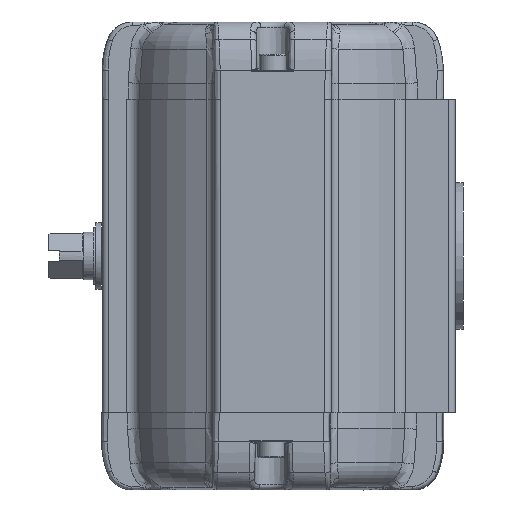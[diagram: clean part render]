
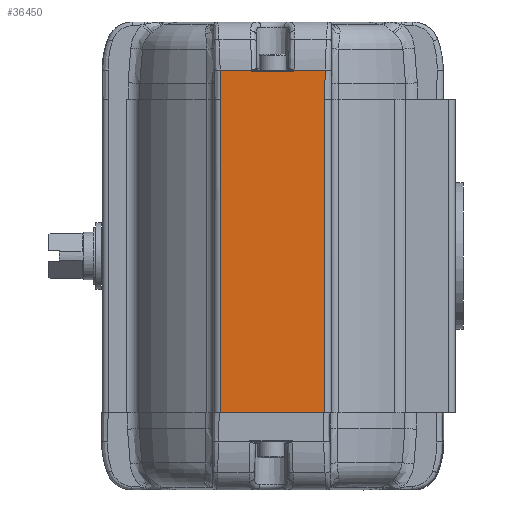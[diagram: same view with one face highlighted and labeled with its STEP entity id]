
A CAD part, left-side view. The second image highlights one B-rep face of the part: STEP entity #36450.
In plain terms, the highlighted planar face has unit normal (-1, 0, 0).
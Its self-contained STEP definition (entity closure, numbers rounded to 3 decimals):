
#816=PLANE('',#40050);
#1895=LINE('',#63742,#3236);
#1896=LINE('',#63746,#3237);
#1897=LINE('',#63775,#3238);
#1898=LINE('',#63777,#3239);
#1899=LINE('',#63779,#3240);
#1900=LINE('',#63781,#3241);
#1901=LINE('',#63783,#3242);
#1902=LINE('',#63811,#3243);
#1903=LINE('',#63812,#3244);
#3236=VECTOR('',#47296,10.);
#3237=VECTOR('',#47299,10.);
#3238=VECTOR('',#47300,10.);
#3239=VECTOR('',#47301,10.);
#3240=VECTOR('',#47302,10.);
#3241=VECTOR('',#47303,10.);
#3242=VECTOR('',#47304,10.);
#3243=VECTOR('',#47305,10.);
#3244=VECTOR('',#47306,10.);
#4645=B_SPLINE_CURVE_WITH_KNOTS('',3,(#63748,#63749,#63750,#63751,#63752,
#63753,#63754,#63755,#63756,#63757,#63758,#63759,#63760,#63761,#63762,#63763,
#63764,#63765,#63766,#63767,#63768,#63769,#63770,#63771,#63772,#63773),
 .UNSPECIFIED.,.F.,.F.,(4,2,2,2,2,2,2,2,2,2,2,2,4),(-1.1,-1.009,
-0.917,-0.825,-0.733,-0.642,
-0.55,-0.458,-0.367,-0.275,
-0.183,-0.092,0.),
 .UNSPECIFIED.);
#4646=B_SPLINE_CURVE_WITH_KNOTS('',3,(#63784,#63785,#63786,#63787,#63788,
#63789,#63790,#63791,#63792,#63793,#63794,#63795,#63796,#63797,#63798,#63799,
#63800,#63801,#63802,#63803,#63804,#63805,#63806,#63807,#63808,#63809),
 .UNSPECIFIED.,.F.,.F.,(4,2,2,2,2,2,2,2,2,2,2,2,4),(-13.038,-12.946,
-12.854,-12.763,-12.671,-12.579,
-12.487,-12.396,-12.304,-12.212,
-12.121,-12.029,-11.937),.UNSPECIFIED.);
#7620=FACE_OUTER_BOUND('',#9937,.T.);
#9937=EDGE_LOOP('',(#27232,#27233,#27234,#27235,#27236,#27237,#27238,#27239,
#27240,#27241,#27242));
#15040=VERTEX_POINT('',#63736);
#15042=VERTEX_POINT('',#63740);
#15043=VERTEX_POINT('',#63744);
#15044=VERTEX_POINT('',#63745);
#15045=VERTEX_POINT('',#63747);
#15046=VERTEX_POINT('',#63774);
#15047=VERTEX_POINT('',#63776);
#15048=VERTEX_POINT('',#63778);
#15049=VERTEX_POINT('',#63780);
#15050=VERTEX_POINT('',#63782);
#15051=VERTEX_POINT('',#63810);
#19295=EDGE_CURVE('',#15042,#15040,#1895,.T.);
#19296=EDGE_CURVE('',#15043,#15044,#1896,.T.);
#19297=EDGE_CURVE('',#15045,#15043,#4645,.T.);
#19298=EDGE_CURVE('',#15045,#15046,#1897,.T.);
#19299=EDGE_CURVE('',#15047,#15046,#1898,.T.);
#19300=EDGE_CURVE('',#15048,#15047,#1899,.T.);
#19301=EDGE_CURVE('',#15048,#15049,#1900,.T.);
#19302=EDGE_CURVE('',#15049,#15050,#1901,.T.);
#19303=EDGE_CURVE('',#15040,#15050,#4646,.T.);
#19304=EDGE_CURVE('',#15042,#15051,#1902,.T.);
#19305=EDGE_CURVE('',#15051,#15044,#1903,.T.);
#27232=ORIENTED_EDGE('',*,*,#19296,.F.);
#27233=ORIENTED_EDGE('',*,*,#19297,.F.);
#27234=ORIENTED_EDGE('',*,*,#19298,.T.);
#27235=ORIENTED_EDGE('',*,*,#19299,.F.);
#27236=ORIENTED_EDGE('',*,*,#19300,.F.);
#27237=ORIENTED_EDGE('',*,*,#19301,.T.);
#27238=ORIENTED_EDGE('',*,*,#19302,.T.);
#27239=ORIENTED_EDGE('',*,*,#19303,.F.);
#27240=ORIENTED_EDGE('',*,*,#19295,.F.);
#27241=ORIENTED_EDGE('',*,*,#19304,.T.);
#27242=ORIENTED_EDGE('',*,*,#19305,.T.);
#36450=ADVANCED_FACE('',(#7620),#816,.T.);
#40050=AXIS2_PLACEMENT_3D('',#63743,#47297,#47298);
#47296=DIRECTION('',(0.,0.,1.));
#47297=DIRECTION('center_axis',(-1.,0.,0.));
#47298=DIRECTION('ref_axis',(0.,0.,1.));
#47299=DIRECTION('',(0.,0.,-1.));
#47300=DIRECTION('',(0.,1.,0.));
#47301=DIRECTION('',(0.,-0.017,1.));
#47302=DIRECTION('',(0.,-1.,0.));
#47303=DIRECTION('',(0.,0.017,1.));
#47304=DIRECTION('',(0.,1.,0.));
#47305=DIRECTION('',(0.,-1.,0.));
#47306=DIRECTION('',(0.,-1.,0.));
#63736=CARTESIAN_POINT('',(-64.,19.5,58.75));
#63740=CARTESIAN_POINT('',(-64.,19.5,-58.75));
#63742=CARTESIAN_POINT('',(-64.,19.5,0.));
#63743=CARTESIAN_POINT('Origin',(-64.,-22.,0.));
#63744=CARTESIAN_POINT('',(-64.,-19.5,58.75));
#63745=CARTESIAN_POINT('',(-64.,-19.5,-58.75));
#63746=CARTESIAN_POINT('',(-64.,-19.5,0.));
#63747=CARTESIAN_POINT('',(-64.,-19.689,69.75));
#63748=CARTESIAN_POINT('Ctrl Pts',(-64.,-19.689,69.75));
#63749=CARTESIAN_POINT('Ctrl Pts',(-64.,-19.679,69.444));
#63750=CARTESIAN_POINT('Ctrl Pts',(-64.,-19.67,69.139));
#63751=CARTESIAN_POINT('Ctrl Pts',(-64.,-19.651,68.528));
#63752=CARTESIAN_POINT('Ctrl Pts',(-64.,-19.642,68.222));
#63753=CARTESIAN_POINT('Ctrl Pts',(-64.,-19.625,67.611));
#63754=CARTESIAN_POINT('Ctrl Pts',(-64.,-19.617,67.305));
#63755=CARTESIAN_POINT('Ctrl Pts',(-64.,-19.602,66.694));
#63756=CARTESIAN_POINT('Ctrl Pts',(-64.,-19.594,66.389));
#63757=CARTESIAN_POINT('Ctrl Pts',(-64.,-19.58,65.778));
#63758=CARTESIAN_POINT('Ctrl Pts',(-64.,-19.574,65.472));
#63759=CARTESIAN_POINT('Ctrl Pts',(-64.,-19.561,64.861));
#63760=CARTESIAN_POINT('Ctrl Pts',(-64.,-19.556,64.556));
#63761=CARTESIAN_POINT('Ctrl Pts',(-64.,-19.545,63.944));
#63762=CARTESIAN_POINT('Ctrl Pts',(-64.,-19.54,63.639));
#63763=CARTESIAN_POINT('Ctrl Pts',(-64.,-19.531,63.028));
#63764=CARTESIAN_POINT('Ctrl Pts',(-64.,-19.526,62.722));
#63765=CARTESIAN_POINT('Ctrl Pts',(-64.,-19.519,62.111));
#63766=CARTESIAN_POINT('Ctrl Pts',(-64.,-19.516,61.806));
#63767=CARTESIAN_POINT('Ctrl Pts',(-64.,-19.51,
61.194));
#63768=CARTESIAN_POINT('Ctrl Pts',(-64.,-19.508,
60.889));
#63769=CARTESIAN_POINT('Ctrl Pts',(-64.,-19.504,
60.278));
#63770=CARTESIAN_POINT('Ctrl Pts',(-64.,-19.502,59.972));
#63771=CARTESIAN_POINT('Ctrl Pts',(-64.,-19.5,59.361));
#63772=CARTESIAN_POINT('Ctrl Pts',(-64.,-19.5,59.056));
#63773=CARTESIAN_POINT('Ctrl Pts',(-64.,-19.5,58.75));
#63774=CARTESIAN_POINT('',(-64.,-8.,69.75));
#63775=CARTESIAN_POINT('',(-64.,0.,69.75));
#63776=CARTESIAN_POINT('',(-64.,-7.992,69.25));
#63777=CARTESIAN_POINT('',(-64.,-8.,69.715));
#63778=CARTESIAN_POINT('',(-64.,7.992,69.25));
#63779=CARTESIAN_POINT('',(-64.,11.,69.25));
#63780=CARTESIAN_POINT('',(-64.,8.,69.75));
#63781=CARTESIAN_POINT('',(-64.,8.319,87.989));
#63782=CARTESIAN_POINT('',(-64.,19.689,69.75));
#63783=CARTESIAN_POINT('',(-64.,0.,69.75));
#63784=CARTESIAN_POINT('Ctrl Pts',(-64.,19.5,58.75));
#63785=CARTESIAN_POINT('Ctrl Pts',(-64.,19.5,59.056));
#63786=CARTESIAN_POINT('Ctrl Pts',(-64.,19.5,59.361));
#63787=CARTESIAN_POINT('Ctrl Pts',(-64.,19.502,59.972));
#63788=CARTESIAN_POINT('Ctrl Pts',(-64.,19.504,60.278));
#63789=CARTESIAN_POINT('Ctrl Pts',(-64.,19.508,60.889));
#63790=CARTESIAN_POINT('Ctrl Pts',(-64.,19.51,61.194));
#63791=CARTESIAN_POINT('Ctrl Pts',(-64.,19.516,61.806));
#63792=CARTESIAN_POINT('Ctrl Pts',(-64.,19.519,62.111));
#63793=CARTESIAN_POINT('Ctrl Pts',(-64.,19.526,62.722));
#63794=CARTESIAN_POINT('Ctrl Pts',(-64.,19.531,63.028));
#63795=CARTESIAN_POINT('Ctrl Pts',(-64.,19.54,63.639));
#63796=CARTESIAN_POINT('Ctrl Pts',(-64.,19.545,63.944));
#63797=CARTESIAN_POINT('Ctrl Pts',(-64.,19.556,64.556));
#63798=CARTESIAN_POINT('Ctrl Pts',(-64.,19.561,64.861));
#63799=CARTESIAN_POINT('Ctrl Pts',(-64.,19.574,65.472));
#63800=CARTESIAN_POINT('Ctrl Pts',(-64.,19.58,65.778));
#63801=CARTESIAN_POINT('Ctrl Pts',(-64.,19.594,66.389));
#63802=CARTESIAN_POINT('Ctrl Pts',(-64.,19.602,66.694));
#63803=CARTESIAN_POINT('Ctrl Pts',(-64.,19.617,67.305));
#63804=CARTESIAN_POINT('Ctrl Pts',(-64.,19.625,67.611));
#63805=CARTESIAN_POINT('Ctrl Pts',(-64.,19.642,68.222));
#63806=CARTESIAN_POINT('Ctrl Pts',(-64.,19.651,68.528));
#63807=CARTESIAN_POINT('Ctrl Pts',(-64.,19.67,69.139));
#63808=CARTESIAN_POINT('Ctrl Pts',(-64.,19.679,69.444));
#63809=CARTESIAN_POINT('Ctrl Pts',(-64.,19.689,69.75));
#63810=CARTESIAN_POINT('',(-64.,0.285,-58.75));
#63811=CARTESIAN_POINT('',(-64.,22.,-58.75));
#63812=CARTESIAN_POINT('',(-64.,22.,-58.75));
